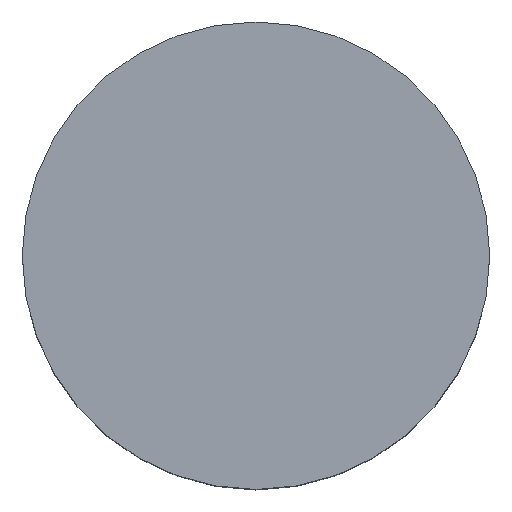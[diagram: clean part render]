
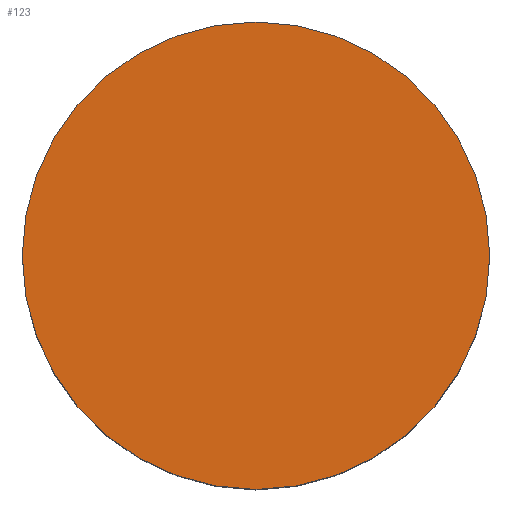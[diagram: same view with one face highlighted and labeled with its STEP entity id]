
A CAD part, top view. The second image highlights one B-rep face of the part: STEP entity #123.
In plain terms, the highlighted planar face has unit normal (0, 0, 1).
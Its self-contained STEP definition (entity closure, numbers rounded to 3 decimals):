
#39 = EDGE_CURVE('',#40,#40,#42,.T.);
#40 = VERTEX_POINT('',#41);
#41 = CARTESIAN_POINT('',(1.4,0.,0.9));
#42 = SURFACE_CURVE('',#43,(#48,#60),.PCURVE_S1.);
#43 = CIRCLE('',#44,1.4);
#44 = AXIS2_PLACEMENT_3D('',#45,#46,#47);
#45 = CARTESIAN_POINT('',(0.,0.,0.9));
#46 = DIRECTION('',(0.,0.,1.));
#47 = DIRECTION('',(1.,0.,-0.));
#48 = PCURVE('',#49,#54);
#49 = CYLINDRICAL_SURFACE('',#50,1.4);
#50 = AXIS2_PLACEMENT_3D('',#51,#52,#53);
#51 = CARTESIAN_POINT('',(0.,0.,-0.9));
#52 = DIRECTION('',(0.,0.,1.));
#53 = DIRECTION('',(1.,0.,-0.));
#54 = DEFINITIONAL_REPRESENTATION('',(#55),#59);
#55 = LINE('',#56,#57);
#56 = CARTESIAN_POINT('',(0.,1.8));
#57 = VECTOR('',#58,1.);
#58 = DIRECTION('',(1.,0.));
#59 = ( GEOMETRIC_REPRESENTATION_CONTEXT(2) 
PARAMETRIC_REPRESENTATION_CONTEXT() REPRESENTATION_CONTEXT('2D SPACE',''
  ) );
#60 = PCURVE('',#61,#66);
#61 = PLANE('',#62);
#62 = AXIS2_PLACEMENT_3D('',#63,#64,#65);
#63 = CARTESIAN_POINT('',(0.,0.,0.9));
#64 = DIRECTION('',(0.,0.,1.));
#65 = DIRECTION('',(1.,0.,-0.));
#66 = DEFINITIONAL_REPRESENTATION('',(#67),#71);
#67 = CIRCLE('',#68,1.4);
#68 = AXIS2_PLACEMENT_2D('',#69,#70);
#69 = CARTESIAN_POINT('',(0.,0.));
#70 = DIRECTION('',(1.,0.));
#71 = ( GEOMETRIC_REPRESENTATION_CONTEXT(2) 
PARAMETRIC_REPRESENTATION_CONTEXT() REPRESENTATION_CONTEXT('2D SPACE',''
  ) );
#123 = ADVANCED_FACE('',(#124),#61,.T.);
#124 = FACE_BOUND('',#125,.T.);
#125 = EDGE_LOOP('',(#126));
#126 = ORIENTED_EDGE('',*,*,#39,.T.);
